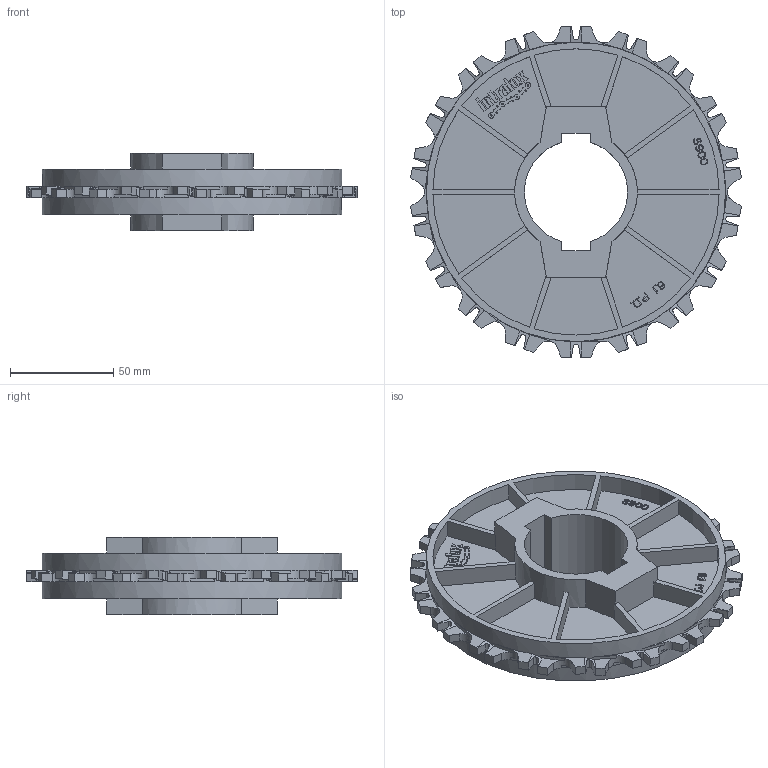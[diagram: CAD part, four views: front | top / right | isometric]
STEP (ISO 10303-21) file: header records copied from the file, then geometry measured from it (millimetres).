
FILE_DESCRIPTION((''),'2;1');
FILE_NAME('S900_SPROCKET_61X1-15_16_PILOT','2008-12-12T',('jmumphre'),(''),'PRO/ENGINEER BY PARAMETRIC TECHNOLOGY CORPORATION, 2008150','PRO/ENGINEER BY PARAMETRIC TECHNOLOGY CORPORATION, 2008150','');
FILE_SCHEMA(('CONFIG_CONTROL_DESIGN'));
Length unit declared in the file: inch
Products named in the file (1): S900_SPROCKET_61X1-15_16_PILOT
Bounding box: 160.28 x 160.22 x 37.59 mm (x, y, z)
Volume: 165922.5 mm3; surface area: 78465.2 mm2
Topology: 1 solids, 1 shells, 1005 faces, 2904 edges, 1936 vertices
Faces by surface type: plane 832, cylinder 173
Entity records: 32823 total; most frequent: CARTESIAN_POINT 6152, ORIENTED_EDGE 5808, DIRECTION 5176, EDGE_CURVE 2904, VECTOR 2426, LINE 2426, VERTEX_POINT 1936, AXIS2_PLACEMENT_3D 1375
